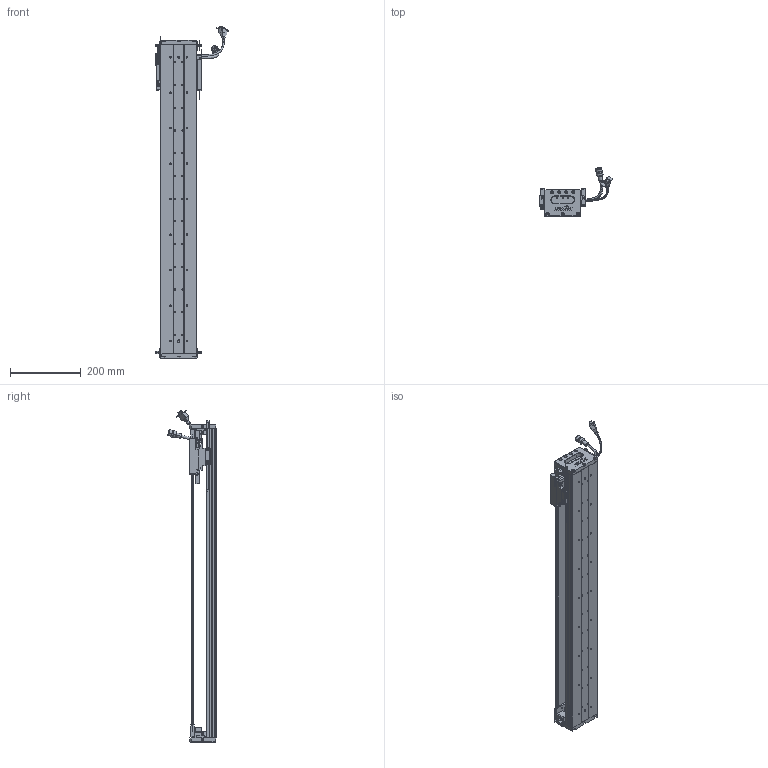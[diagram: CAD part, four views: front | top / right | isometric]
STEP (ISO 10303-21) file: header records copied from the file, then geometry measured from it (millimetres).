
FILE_DESCRIPTION (( 'STEP AP203' ), '1' );
FILE_NAME ('Z1-RY100D-1-L500-B-K.SLDASM_0700.step', '2021-05-17T01:40:34', ( '盈信电脑' ), ( '东莞市道滘镇水果街19号' ), 'SwSTEP 2.0', 'SolidWorks 2016', '' );
FILE_SCHEMA (( 'CONFIG_CONTROL_DESIGN' ));
Length unit declared in the file: millimetre
Products named in the file (36): SCREW-M1.7; HARNESS; Z1-RY100铝滑块（21款）; SCREW-M1.6-2; Z1-RY100D-500-倰第菁釱_0700; Z1-RY100-L500詩湍90mm遵_0700; SEAL; SCREW-M1.6-3; Z-100詩湍傷裔啣; LABEL; SCREW-M1.6-1; HARNESS-Part-2; SHIELDPLATE; Z-RY100D詩湍狟揤裔; SCALE; PBU_SHEET; COVER-Part-1; Z-RY100D覜茼んえ; LABEL-Part-1; 覜茼ん672; SCALE-Part-1; 080黍杅芛假蚾釱21遴; COVER; HARNESS-Part-1; Z-RY100D詩湍奻揤裔; 榋妏寠巭燃_暯_M2_2; SCALE-Part-2; SEAL-Part-1; SCREW-M1.6; PSLH080_PSLF2; 140雄赽晤鎢ん堤盄; Z1-RY100D-1-L500-B-K.SLDASM_0700; SCREW-M1.7-1; 100-Z-臏賑輸盄裔(21遴); 140蚥薯蝶輸; HOLDER0
Assembly tree (44 placements, depth 4):
  Z1-RY100D-1-L500-B-K.SLDASM_0700
    Z1-RY100D-500-倰第菁釱_0700
    Z1-RY100铝滑块（21款）
    PSLH080_PSLF2
      SCALE
        SCALE-Part-1
        SCALE-Part-2
      HARNESS
        HARNESS-Part-1
        HARNESS-Part-2
      LABEL
        LABEL-Part-1
      COVER
        COVER-Part-1
      SEAL
        SEAL-Part-1
      榋妏寠巭燃_暯_M2_2
      SHIELDPLATE
      SCREW-M1.7
      SCREW-M1.7-1
      PBU_SHEET
      SCREW-M1.6
      SCREW-M1.6-1
      SCREW-M1.6-2
      SCREW-M1.6-3
      HOLDER0
    080黍杅芛假蚾釱21遴
    Z-100詩湍傷裔啣  x2
    140蚥薯蝶輸  x2
    覜茼ん672  x4
    Z-RY100D覜茼んえ  x3
    100-Z-臏賑輸盄裔(21遴)
    140雄赽晤鎢ん堤盄
    Z1-RY100-L500詩湍90mm遵_0700
    Z-RY100D詩湍狟揤裔  x2
    Z-RY100D詩湍奻揤裔  x2
Bounding box: 205.84 x 136.11 x 935.43 mm (x, y, z)
Volume: 1910227.6 mm3; surface area: 750472.3 mm2
Topology: 39 solids, 39 shells, 2546 faces, 6667 edges, 4228 vertices
Faces by surface type: plane 1168, cylinder 1046, cone 210, torus 69, bspline 53
Entity records: 66071 total; most frequent: CARTESIAN_POINT 14021, DIRECTION 10357, ORIENTED_EDGE 9766, EDGE_CURVE 4883, AXIS2_PLACEMENT_3D 3772, VERTEX_POINT 3136, LINE 2813, VECTOR 2813
